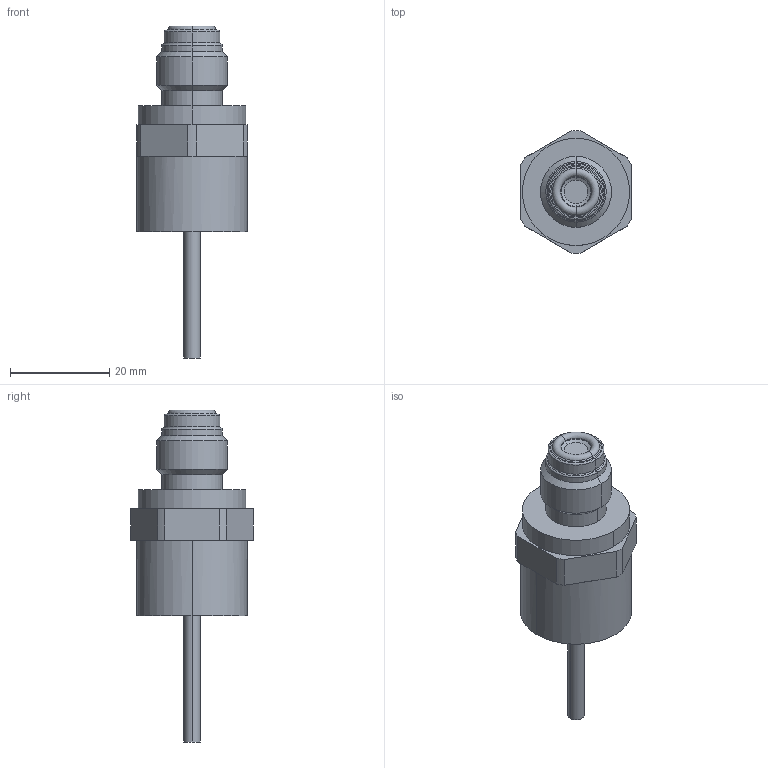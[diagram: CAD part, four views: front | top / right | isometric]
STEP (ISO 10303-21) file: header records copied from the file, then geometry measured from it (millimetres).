
FILE_DESCRIPTION (( 'STEP AP214' ), '1' );
FILE_NAME ('P17W VCR WIRES.STEP', '2008-01-14T13:20:36', ( 'Authorized User' ), ( 'Precision Sensors' ), 'SwSTEP 2.0', 'SolidWorks 2006303', '' );
FILE_SCHEMA (( 'AUTOMOTIVE_DESIGN' ));
Length unit declared in the file: inch
Products named in the file (1): P17W VCR WIRES
Bounding box: 22.25 x 24.76 x 66.88 mm (x, y, z)
Volume: 12283.9 mm3; surface area: 3582.4 mm2
Topology: 1 solids, 1 shells, 62 faces, 134 edges, 78 vertices
Faces by surface type: plane 24, cylinder 20, torus 12, cone 6
Entity records: 1711 total; most frequent: DIRECTION 338, CARTESIAN_POINT 275, ORIENTED_EDGE 268, AXIS2_PLACEMENT_3D 141, EDGE_CURVE 134, VERTEX_POINT 78, CIRCLE 78, EDGE_LOOP 66
